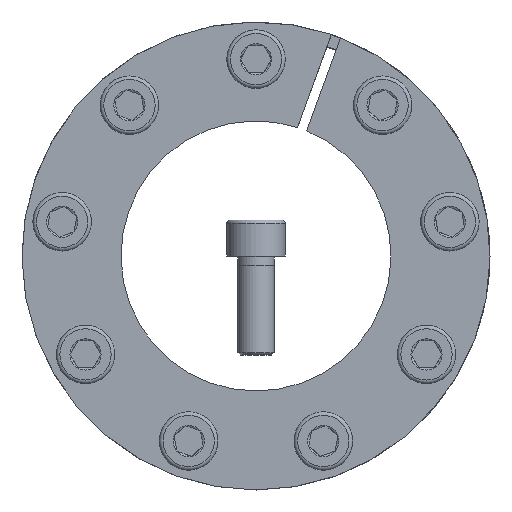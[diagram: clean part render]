
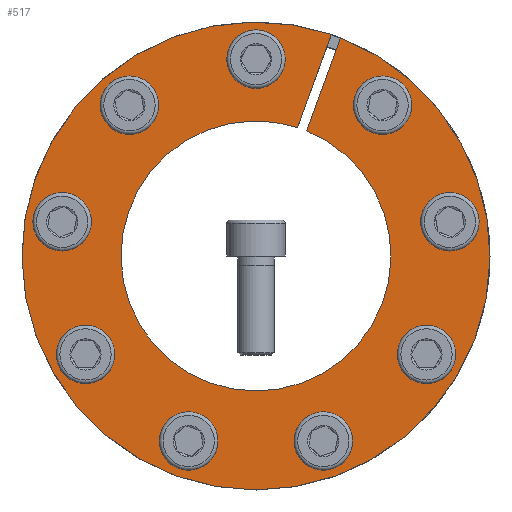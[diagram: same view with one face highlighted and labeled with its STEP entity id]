
A CAD part, front view. The second image highlights one B-rep face of the part: STEP entity #517.
In plain terms, the highlighted planar face has unit normal (0, -1, 0).
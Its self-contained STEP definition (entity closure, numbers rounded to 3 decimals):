
#517 = ADVANCED_FACE( '', ( #944, #945, #946, #947, #948, #949, #950, #951, #952, #953 ), #954, .F. );
#944 = FACE_BOUND( '', #1582, .T. );
#945 = FACE_BOUND( '', #1583, .T. );
#946 = FACE_BOUND( '', #1584, .T. );
#947 = FACE_BOUND( '', #1585, .T. );
#948 = FACE_BOUND( '', #1586, .T. );
#949 = FACE_BOUND( '', #1587, .T. );
#950 = FACE_BOUND( '', #1588, .T. );
#951 = FACE_BOUND( '', #1589, .T. );
#952 = FACE_BOUND( '', #1590, .T. );
#953 = FACE_OUTER_BOUND( '', #1591, .T. );
#954 = PLANE( '', #1592 );
#1582 = EDGE_LOOP( '', ( #2329 ) );
#1583 = EDGE_LOOP( '', ( #2330 ) );
#1584 = EDGE_LOOP( '', ( #2331 ) );
#1585 = EDGE_LOOP( '', ( #2332 ) );
#1586 = EDGE_LOOP( '', ( #2333 ) );
#1587 = EDGE_LOOP( '', ( #2334 ) );
#1588 = EDGE_LOOP( '', ( #2335 ) );
#1589 = EDGE_LOOP( '', ( #2336 ) );
#1590 = EDGE_LOOP( '', ( #2337 ) );
#1591 = EDGE_LOOP( '', ( #2338, #2339, #2340, #2341 ) );
#1592 = AXIS2_PLACEMENT_3D( '', #2342, #2343, #2344 );
#2329 = ORIENTED_EDGE( '', *, *, #3767, .T. );
#2330 = ORIENTED_EDGE( '', *, *, #3768, .T. );
#2331 = ORIENTED_EDGE( '', *, *, #3769, .T. );
#2332 = ORIENTED_EDGE( '', *, *, #3770, .T. );
#2333 = ORIENTED_EDGE( '', *, *, #3771, .T. );
#2334 = ORIENTED_EDGE( '', *, *, #3772, .T. );
#2335 = ORIENTED_EDGE( '', *, *, #3773, .T. );
#2336 = ORIENTED_EDGE( '', *, *, #3774, .T. );
#2337 = ORIENTED_EDGE( '', *, *, #3755, .T. );
#2338 = ORIENTED_EDGE( '', *, *, #3750, .T. );
#2339 = ORIENTED_EDGE( '', *, *, #3756, .T. );
#2340 = ORIENTED_EDGE( '', *, *, #3727, .T. );
#2341 = ORIENTED_EDGE( '', *, *, #3718, .F. );
#2342 = CARTESIAN_POINT( '', ( 0., 0., 52. ) );
#2343 = DIRECTION( '', ( 0., 1., 0. ) );
#2344 = DIRECTION( '', ( 0., 0., 1. ) );
#3718 = EDGE_CURVE( '', #4126, #4122, #4128, .T. );
#3727 = EDGE_CURVE( '', #4145, #4122, #4146, .T. );
#3750 = EDGE_CURVE( '', #4126, #4181, #4183, .T. );
#3755 = EDGE_CURVE( '', #4189, #4189, #4190, .T. );
#3756 = EDGE_CURVE( '', #4181, #4145, #4191, .T. );
#3767 = EDGE_CURVE( '', #4211, #4211, #4212, .T. );
#3768 = EDGE_CURVE( '', #4213, #4213, #4214, .T. );
#3769 = EDGE_CURVE( '', #4215, #4215, #4216, .T. );
#3770 = EDGE_CURVE( '', #4217, #4217, #4218, .T. );
#3771 = EDGE_CURVE( '', #4219, #4219, #4220, .T. );
#3772 = EDGE_CURVE( '', #4221, #4221, #4222, .T. );
#3773 = EDGE_CURVE( '', #4223, #4223, #4224, .T. );
#3774 = EDGE_CURVE( '', #4225, #4225, #4226, .T. );
#4122 = VERTEX_POINT( '', #4697 );
#4126 = VERTEX_POINT( '', #4702 );
#4128 = CIRCLE( '', #4705, 30. );
#4145 = VERTEX_POINT( '', #4730 );
#4146 = LINE( '', #4731, #4732 );
#4181 = VERTEX_POINT( '', #4796 );
#4183 = LINE( '', #4799, #4800 );
#4189 = VERTEX_POINT( '', #4806 );
#4190 = CIRCLE( '', #4807, 4. );
#4191 = CIRCLE( '', #4808, 52. );
#4211 = VERTEX_POINT( '', #4828 );
#4212 = CIRCLE( '', #4829, 4. );
#4213 = VERTEX_POINT( '', #4830 );
#4214 = CIRCLE( '', #4831, 4. );
#4215 = VERTEX_POINT( '', #4832 );
#4216 = CIRCLE( '', #4833, 4. );
#4217 = VERTEX_POINT( '', #4834 );
#4218 = CIRCLE( '', #4835, 4. );
#4219 = VERTEX_POINT( '', #4836 );
#4220 = CIRCLE( '', #4837, 4. );
#4221 = VERTEX_POINT( '', #4838 );
#4222 = CIRCLE( '', #4839, 4. );
#4223 = VERTEX_POINT( '', #4840 );
#4224 = CIRCLE( '', #4841, 4. );
#4225 = VERTEX_POINT( '', #4842 );
#4226 = CIRCLE( '', #4843, 4. );
#4697 = CARTESIAN_POINT( '', ( 11.287, 0., 27.796 ) );
#4702 = CARTESIAN_POINT( '', ( 9.22, 0., 28.548 ) );
#4705 = AXIS2_PLACEMENT_3D( '', #5782, #5783, #5784 );
#4730 = CARTESIAN_POINT( '', ( 18.815, 0., 48.477 ) );
#4731 = CARTESIAN_POINT( '', ( 18.819, 0., 48.488 ) );
#4732 = VECTOR( '', #5799, 1000. );
#4796 = CARTESIAN_POINT( '', ( 16.747, 0., 49.229 ) );
#4799 = CARTESIAN_POINT( '', ( 9.22, 0., 28.548 ) );
#4800 = VECTOR( '', #5824, 1000. );
#4806 = CARTESIAN_POINT( '', ( -25.058, 0., 36.086 ) );
#4807 = AXIS2_PLACEMENT_3D( '', #5837, #5838, #5839 );
#4808 = AXIS2_PLACEMENT_3D( '', #5840, #5841, #5842 );
#4828 = CARTESIAN_POINT( '', ( 4., 0., 43.75 ) );
#4829 = AXIS2_PLACEMENT_3D( '', #5873, #5874, #5875 );
#4830 = CARTESIAN_POINT( '', ( 31.186, 0., 30.943 ) );
#4831 = AXIS2_PLACEMENT_3D( '', #5876, #5877, #5878 );
#4832 = CARTESIAN_POINT( '', ( 43.78, 0., 3.658 ) );
#4833 = AXIS2_PLACEMENT_3D( '', #5879, #5880, #5881 );
#4834 = CARTESIAN_POINT( '', ( 35.889, 0., -25.339 ) );
#4835 = AXIS2_PLACEMENT_3D( '', #5882, #5883, #5884 );
#4836 = CARTESIAN_POINT( '', ( 11.205, 0., -42.48 ) );
#4837 = AXIS2_PLACEMENT_3D( '', #5885, #5886, #5887 );
#4838 = CARTESIAN_POINT( '', ( -18.722, 0., -39.743 ) );
#4839 = AXIS2_PLACEMENT_3D( '', #5888, #5889, #5890 );
#4840 = CARTESIAN_POINT( '', ( -39.889, 0., -18.411 ) );
#4841 = AXIS2_PLACEMENT_3D( '', #5891, #5892, #5893 );
#4842 = CARTESIAN_POINT( '', ( -42.391, 0., 11.536 ) );
#4843 = AXIS2_PLACEMENT_3D( '', #5894, #5895, #5896 );
#5782 = CARTESIAN_POINT( '', ( 0., 0., 0. ) );
#5783 = DIRECTION( '', ( 0., -1., 0. ) );
#5784 = DIRECTION( '', ( 0., 0., -1. ) );
#5799 = DIRECTION( '', ( -0.342, 0., -0.94 ) );
#5824 = DIRECTION( '', ( 0.342, 0., 0.94 ) );
#5837 = CARTESIAN_POINT( '', ( -28.122, 0., 33.514 ) );
#5838 = DIRECTION( '', ( 0., 1., 0. ) );
#5839 = DIRECTION( '', ( 0.766, 0., 0.643 ) );
#5840 = CARTESIAN_POINT( '', ( 0., 0., 0. ) );
#5841 = DIRECTION( '', ( 0., -1., 0. ) );
#5842 = DIRECTION( '', ( 0., 0., -1. ) );
#5873 = CARTESIAN_POINT( '', ( 0., 0., 43.75 ) );
#5874 = DIRECTION( '', ( 0., 1., 0. ) );
#5875 = DIRECTION( '', ( 1., 0., 0. ) );
#5876 = CARTESIAN_POINT( '', ( 28.122, 0., 33.514 ) );
#5877 = DIRECTION( '', ( 0., 1., 0. ) );
#5878 = DIRECTION( '', ( 0.766, 0., -0.643 ) );
#5879 = CARTESIAN_POINT( '', ( 43.085, 0., 7.597 ) );
#5880 = DIRECTION( '', ( 0., 1., 0. ) );
#5881 = DIRECTION( '', ( 0.174, 0., -0.985 ) );
#5882 = CARTESIAN_POINT( '', ( 37.889, 0., -21.875 ) );
#5883 = DIRECTION( '', ( 0., 1., 0. ) );
#5884 = DIRECTION( '', ( -0.5, 0., -0.866 ) );
#5885 = CARTESIAN_POINT( '', ( 14.963, 0., -41.112 ) );
#5886 = DIRECTION( '', ( 0., 1., 0. ) );
#5887 = DIRECTION( '', ( -0.94, 0., -0.342 ) );
#5888 = CARTESIAN_POINT( '', ( -14.963, 0., -41.112 ) );
#5889 = DIRECTION( '', ( 0., 1., 0. ) );
#5890 = DIRECTION( '', ( -0.94, 0., 0.342 ) );
#5891 = CARTESIAN_POINT( '', ( -37.889, 0., -21.875 ) );
#5892 = DIRECTION( '', ( 0., 1., 0. ) );
#5893 = DIRECTION( '', ( -0.5, 0., 0.866 ) );
#5894 = CARTESIAN_POINT( '', ( -43.085, 0., 7.597 ) );
#5895 = DIRECTION( '', ( 0., 1., 0. ) );
#5896 = DIRECTION( '', ( 0.174, 0., 0.985 ) );
